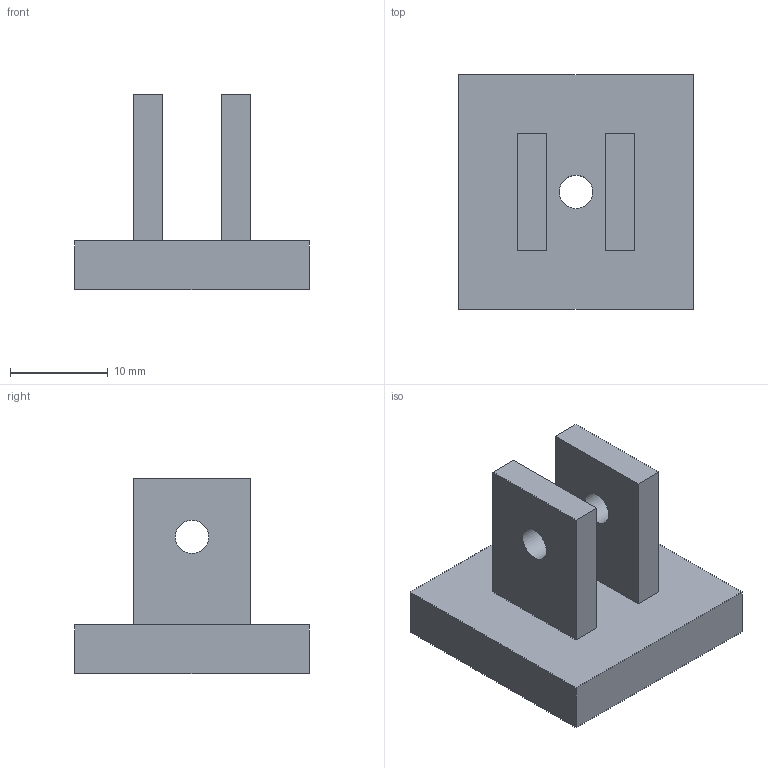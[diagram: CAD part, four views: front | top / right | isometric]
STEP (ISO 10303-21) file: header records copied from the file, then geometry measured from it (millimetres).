
FILE_DESCRIPTION(('Open CASCADE Model'),'2;1');
FILE_NAME('Open CASCADE Shape Model','2026-10-06T19:56:09',('Author'),( 'Open CASCADE'),'Open CASCADE STEP processor 7.9','Open CASCADE 7.9' ,'Unknown');
FILE_SCHEMA(('AUTOMOTIVE_DESIGN { 1 0 10303 214 1 1 1 1 }'));
Length unit declared in the file: millimetre
Products named in the file (1): Open CASCADE STEP translator 7.9 23
Bounding box: 24 x 24 x 20 mm (x, y, z)
Volume: 3860.1 mm3; surface area: 2595 mm2
Topology: 1 solids, 1 shells, 19 faces, 45 edges, 30 vertices
Faces by surface type: plane 16, cylinder 3
Full cylindrical faces by diameter (mm): 3.4 x3
Entity records: 1170 total; most frequent: CARTESIAN_POINT 221, DIRECTION 175, LINE 123, VECTOR 123, ORIENTED_EDGE 90, PCURVE 90, DEFINITIONAL_REPRESENTATION 90, EDGE_CURVE 45
